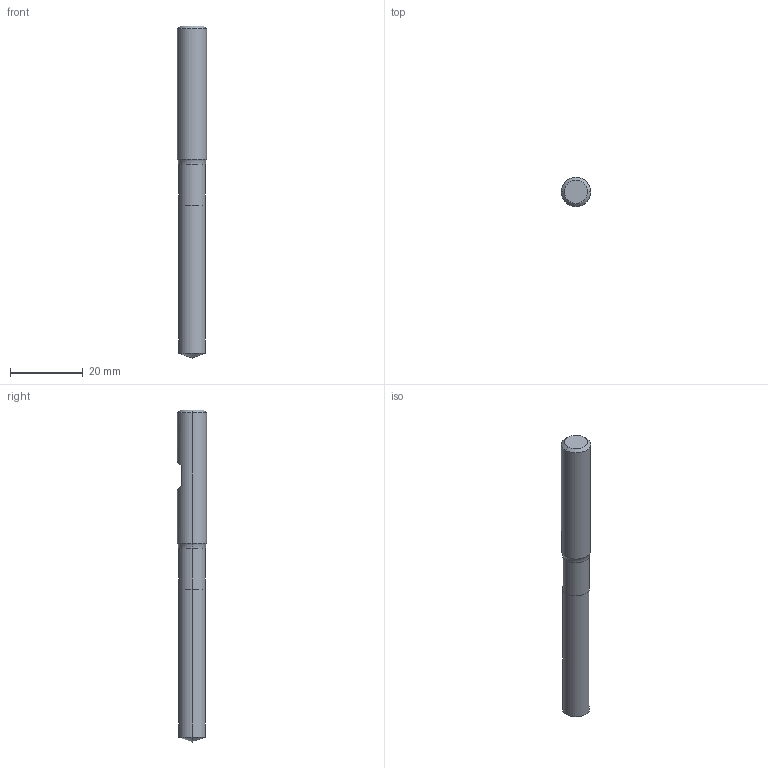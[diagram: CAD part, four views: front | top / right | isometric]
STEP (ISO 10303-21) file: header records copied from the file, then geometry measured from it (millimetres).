
FILE_DESCRIPTION (( 'STEP AP214' ), '1' );
FILE_NAME ('905.074.10_3D-model.step', '2022-02-24T18:28:07', ( '' ), ( '' ), 'SwSTEP 2.0', 'SolidWorks 2020', '' );
FILE_SCHEMA (( 'AUTOMOTIVE_DESIGN' ));
Length unit declared in the file: millimetre
Products named in the file (3): NOCUT-3D^Baugr177; CUT-3D^Baugr177; 905.074.10_3D-model
Assembly tree (2 placements, depth 2):
  905.074.10_3D-model
    CUT-3D^Baugr177
    NOCUT-3D^Baugr177
Bounding box: 8 x 8 x 91 mm (x, y, z)
Volume: 4109.3 mm3; surface area: 2324.2 mm2
Topology: 2 solids, 2 shells, 18 faces, 34 edges, 19 vertices
Faces by surface type: cylinder 6, plane 6, cone 4, torus 2
Entity records: 558 total; most frequent: DIRECTION 98, CARTESIAN_POINT 83, ORIENTED_EDGE 64, AXIS2_PLACEMENT_3D 42, EDGE_CURVE 32, EDGE_LOOP 19, VERTEX_POINT 19, ADVANCED_FACE 18
